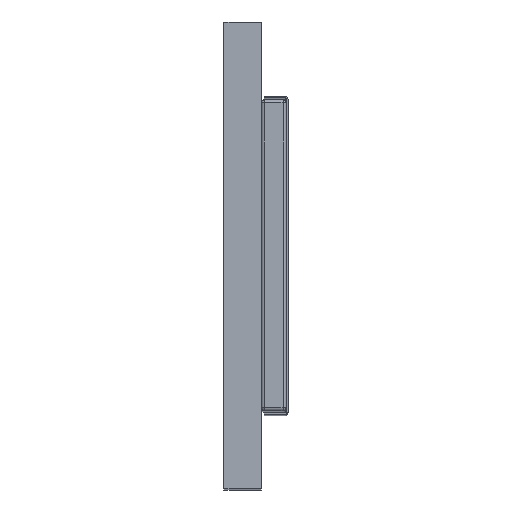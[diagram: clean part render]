
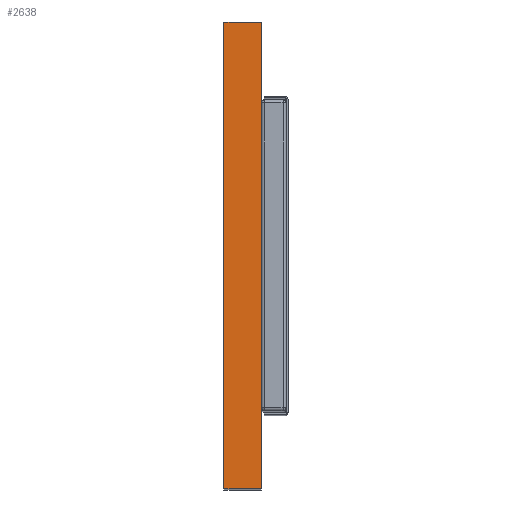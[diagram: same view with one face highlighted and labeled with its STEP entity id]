
A CAD part, top view. The second image highlights one B-rep face of the part: STEP entity #2638.
In plain terms, the highlighted planar face has unit normal (0, 0, 1).
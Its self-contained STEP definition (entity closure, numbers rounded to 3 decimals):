
#22 = CARTESIAN_POINT ( 'NONE',  ( 6., 75., 128. ) ) ;
#44 = DIRECTION ( 'NONE',  ( 1., 0., 0. ) ) ;
#46 = CARTESIAN_POINT ( 'NONE',  ( 0., 0., 128. ) ) ;
#253 = CARTESIAN_POINT ( 'NONE',  ( 6., 0., 128. ) ) ;
#283 = DIRECTION ( 'NONE',  ( 0., -1., 0. ) ) ;
#353 = CARTESIAN_POINT ( 'NONE',  ( 6., 0., 128. ) ) ;
#550 = CARTESIAN_POINT ( 'NONE',  ( 0., 0., 128. ) ) ;
#623 = DIRECTION ( 'NONE',  ( -1., 0., 0. ) ) ;
#791 = VERTEX_POINT ( 'NONE', #22 ) ;
#900 = CARTESIAN_POINT ( 'NONE',  ( 0., 0., 128. ) ) ;
#975 = VERTEX_POINT ( 'NONE', #900 ) ;
#1116 = ORIENTED_EDGE ( 'NONE', *, *, #1136, .T. ) ;
#1136 = EDGE_CURVE ( 'NONE', #975, #1625, #1973, .T. ) ;
#1250 = DIRECTION ( 'NONE',  ( 0., 0., -1. ) ) ;
#1336 = ORIENTED_EDGE ( 'NONE', *, *, #2802, .T. ) ;
#1536 = AXIS2_PLACEMENT_3D ( 'NONE', #550, #1250, #2914 ) ;
#1625 = VERTEX_POINT ( 'NONE', #253 ) ;
#1836 = ORIENTED_EDGE ( 'NONE', *, *, #2831, .T. ) ;
#1919 = EDGE_LOOP ( 'NONE', ( #1990, #1116, #1336, #1836 ) ) ;
#1958 = VECTOR ( 'NONE', #623, 1000. ) ;
#1973 = LINE ( 'NONE', #2686, #2040 ) ;
#1990 = ORIENTED_EDGE ( 'NONE', *, *, #2585, .T. ) ;
#2013 = CARTESIAN_POINT ( 'NONE',  ( 0., 75., 128. ) ) ;
#2040 = VECTOR ( 'NONE', #44, 1000. ) ;
#2508 = CARTESIAN_POINT ( 'NONE',  ( 0., 75., 128. ) ) ;
#2526 = LINE ( 'NONE', #2013, #1958 ) ;
#2561 = VECTOR ( 'NONE', #283, 1000. ) ;
#2585 = EDGE_CURVE ( 'NONE', #2859, #975, #2642, .T. ) ;
#2600 = VECTOR ( 'NONE', #2729, 1000. ) ;
#2638 = ADVANCED_FACE ( 'NONE', ( #3045 ), #2666, .F. ) ;
#2642 = LINE ( 'NONE', #46, #2561 ) ;
#2666 = PLANE ( 'NONE',  #1536 ) ;
#2677 = LINE ( 'NONE', #353, #2600 ) ;
#2686 = CARTESIAN_POINT ( 'NONE',  ( 0., 0., 128. ) ) ;
#2729 = DIRECTION ( 'NONE',  ( 0., 1., 0. ) ) ;
#2802 = EDGE_CURVE ( 'NONE', #1625, #791, #2677, .T. ) ;
#2831 = EDGE_CURVE ( 'NONE', #791, #2859, #2526, .T. ) ;
#2859 = VERTEX_POINT ( 'NONE', #2508 ) ;
#2914 = DIRECTION ( 'NONE',  ( -1., 0., 0. ) ) ;
#3045 = FACE_OUTER_BOUND ( 'NONE', #1919, .T. ) ;
